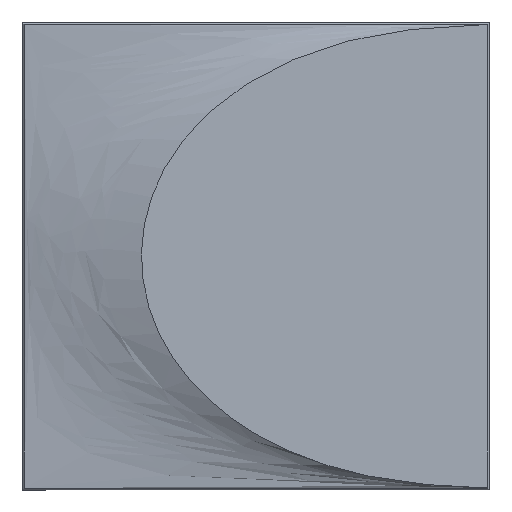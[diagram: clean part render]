
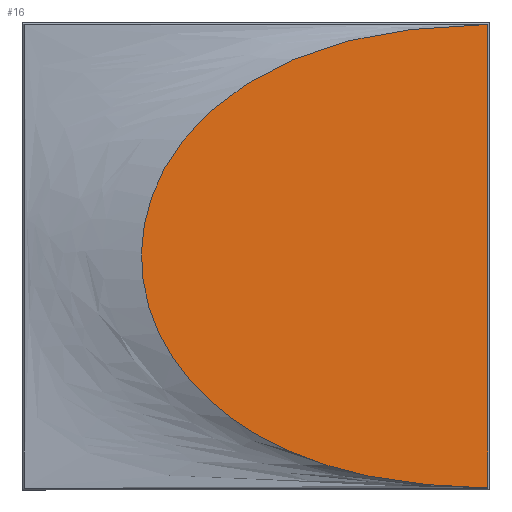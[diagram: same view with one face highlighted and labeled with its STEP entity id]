
A CAD part, top view. The second image highlights one B-rep face of the part: STEP entity #16.
In plain terms, the highlighted planar face has unit normal (-0.088, 0, -0.996).
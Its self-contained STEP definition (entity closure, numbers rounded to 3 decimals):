
#16=ADVANCED_FACE('',(#28),#176,.T.);
#28=FACE_OUTER_BOUND('',#40,.T.);
#40=EDGE_LOOP('',(#59,#60,#61));
#59=ORIENTED_EDGE('',*,*,#125,.F.);
#60=ORIENTED_EDGE('',*,*,#123,.F.);
#61=ORIENTED_EDGE('',*,*,#104,.T.);
#104=EDGE_CURVE('',#160,#159,#132,.T.);
#123=EDGE_CURVE('',#160,#170,#151,.T.);
#125=EDGE_CURVE('',#170,#159,#153,.T.);
#132=B_SPLINE_CURVE_WITH_KNOTS('',3,(#921,#922,#923,#924),.UNSPECIFIED.,
 .F.,.F.,(4,4),(-250.025,-0.008),.UNSPECIFIED.);
#151=B_SPLINE_CURVE_WITH_KNOTS('',3,(#1015,#1016,#1017,#1018,#1019,#1020,
#1021,#1022,#1023,#1024,#1025,#1026,#1027,#1028,#1029,#1030,#1031,#1032,
#1033,#1034,#1035,#1036,#1037,#1038,#1039,#1040,#1041,#1042,#1043,#1044,
#1045,#1046,#1047,#1048,#1049,#1050,#1051,#1052,#1053,#1054,#1055,#1056,
#1057,#1058,#1059,#1060,#1061,#1062,#1063,#1064,#1065,#1066,#1067,#1068),
 .UNSPECIFIED.,.F.,.F.,(4,1,1,1,1,1,1,1,1,1,1,1,1,1,1,1,1,1,1,1,1,1,1,1,
1,1,1,1,1,1,1,1,1,1,1,1,1,1,1,1,1,1,1,1,1,1,1,1,1,1,1,4),(0.,7.085,
14.169,21.254,28.339,35.423,42.508,
49.592,56.677,63.762,70.846,77.931,
85.016,92.1,99.185,106.269,113.354,
120.439,127.523,134.608,141.693,148.777,
155.862,162.947,170.031,177.116,184.2,
191.285,198.37,205.454,212.539,219.624,
226.708,233.793,240.877,247.962,255.047,
262.131,269.216,276.301,283.385,290.47,
297.555,304.639,311.724,318.808,325.893,
332.978,340.062,347.147,354.232,361.316),
 .UNSPECIFIED.);
#153=B_SPLINE_CURVE_WITH_KNOTS('',3,(#1075,#1076,#1077,#1078),
 .UNSPECIFIED.,.F.,.F.,(4,4),(-0.004,0.),.UNSPECIFIED.);
#159=VERTEX_POINT('',#889);
#160=VERTEX_POINT('',#890);
#170=VERTEX_POINT('',#900);
#176=PLANE('',#273);
#273=AXIS2_PLACEMENT_3D('',#297,#285,$);
#285=DIRECTION('',(-0.088,0.,-0.996));
#297=CARTESIAN_POINT('',(249.157,0.852,14.981));
#889=CARTESIAN_POINT('',(249.157,0.86,14.982));
#890=CARTESIAN_POINT('',(249.157,248.844,14.982));
#900=CARTESIAN_POINT('',(249.153,0.86,14.982));
#921=CARTESIAN_POINT('',(249.157,248.844,14.982));
#922=CARTESIAN_POINT('',(249.157,166.182,14.982));
#923=CARTESIAN_POINT('',(249.157,83.521,14.982));
#924=CARTESIAN_POINT('',(249.157,0.86,14.981));
#1015=CARTESIAN_POINT('',(249.157,248.844,14.982));
#1016=CARTESIAN_POINT('',(245.93,248.749,15.266));
#1017=CARTESIAN_POINT('',(239.476,248.513,15.835));
#1018=CARTESIAN_POINT('',(229.803,248.006,16.687));
#1019=CARTESIAN_POINT('',(220.139,247.33,17.539));
#1020=CARTESIAN_POINT('',(210.494,246.435,18.389));
#1021=CARTESIAN_POINT('',(200.875,245.257,19.237));
#1022=CARTESIAN_POINT('',(191.313,243.741,20.079));
#1023=CARTESIAN_POINT('',(181.796,241.834,20.918));
#1024=CARTESIAN_POINT('',(172.436,239.532,21.743));
#1025=CARTESIAN_POINT('',(163.092,236.768,22.566));
#1026=CARTESIAN_POINT('',(153.949,233.595,23.372));
#1027=CARTESIAN_POINT('',(144.939,230.002,24.166));
#1028=CARTESIAN_POINT('',(136.128,225.982,24.942));
#1029=CARTESIAN_POINT('',(127.508,221.471,25.702));
#1030=CARTESIAN_POINT('',(119.275,216.535,26.427));
#1031=CARTESIAN_POINT('',(111.198,210.978,27.139));
#1032=CARTESIAN_POINT('',(103.608,204.971,27.808));
#1033=CARTESIAN_POINT('',(96.432,198.42,28.44));
#1034=CARTESIAN_POINT('',(89.775,191.348,29.027));
#1035=CARTESIAN_POINT('',(83.704,183.761,29.562));
#1036=CARTESIAN_POINT('',(78.298,175.683,30.038));
#1037=CARTESIAN_POINT('',(73.634,167.145,30.449));
#1038=CARTESIAN_POINT('',(69.795,158.211,30.787));
#1039=CARTESIAN_POINT('',(66.843,148.933,31.047));
#1040=CARTESIAN_POINT('',(64.842,139.405,31.224));
#1041=CARTESIAN_POINT('',(63.828,129.725,31.313));
#1042=CARTESIAN_POINT('',(63.827,119.984,31.313));
#1043=CARTESIAN_POINT('',(64.841,110.302,31.224));
#1044=CARTESIAN_POINT('',(66.842,100.777,31.048));
#1045=CARTESIAN_POINT('',(69.793,91.498,30.787));
#1046=CARTESIAN_POINT('',(73.632,82.564,30.449));
#1047=CARTESIAN_POINT('',(78.295,74.026,30.038));
#1048=CARTESIAN_POINT('',(83.702,65.946,29.562));
#1049=CARTESIAN_POINT('',(89.771,58.36,29.027));
#1050=CARTESIAN_POINT('',(96.431,51.285,28.44));
#1051=CARTESIAN_POINT('',(103.6,44.738,27.808));
#1052=CARTESIAN_POINT('',(111.213,38.716,27.137));
#1053=CARTESIAN_POINT('',(119.205,33.214,26.433));
#1054=CARTESIAN_POINT('',(127.523,28.222,25.7));
#1055=CARTESIAN_POINT('',(136.115,23.729,24.943));
#1056=CARTESIAN_POINT('',(144.937,19.702,24.166));
#1057=CARTESIAN_POINT('',(153.946,16.11,23.372));
#1058=CARTESIAN_POINT('',(163.083,12.939,22.566));
#1059=CARTESIAN_POINT('',(172.451,10.167,21.741));
#1060=CARTESIAN_POINT('',(181.788,7.872,20.918));
#1061=CARTESIAN_POINT('',(191.304,5.964,20.08));
#1062=CARTESIAN_POINT('',(200.889,4.445,19.235));
#1063=CARTESIAN_POINT('',(210.417,3.277,18.395));
#1064=CARTESIAN_POINT('',(220.156,2.372,17.537));
#1065=CARTESIAN_POINT('',(229.789,1.699,16.688));
#1066=CARTESIAN_POINT('',(239.492,1.189,15.833));
#1067=CARTESIAN_POINT('',(245.929,0.955,15.266));
#1068=CARTESIAN_POINT('',(249.153,0.86,14.982));
#1075=CARTESIAN_POINT('',(249.153,0.86,14.982));
#1076=CARTESIAN_POINT('',(249.154,0.86,14.982));
#1077=CARTESIAN_POINT('',(249.156,0.86,14.982));
#1078=CARTESIAN_POINT('',(249.157,0.86,14.981));
